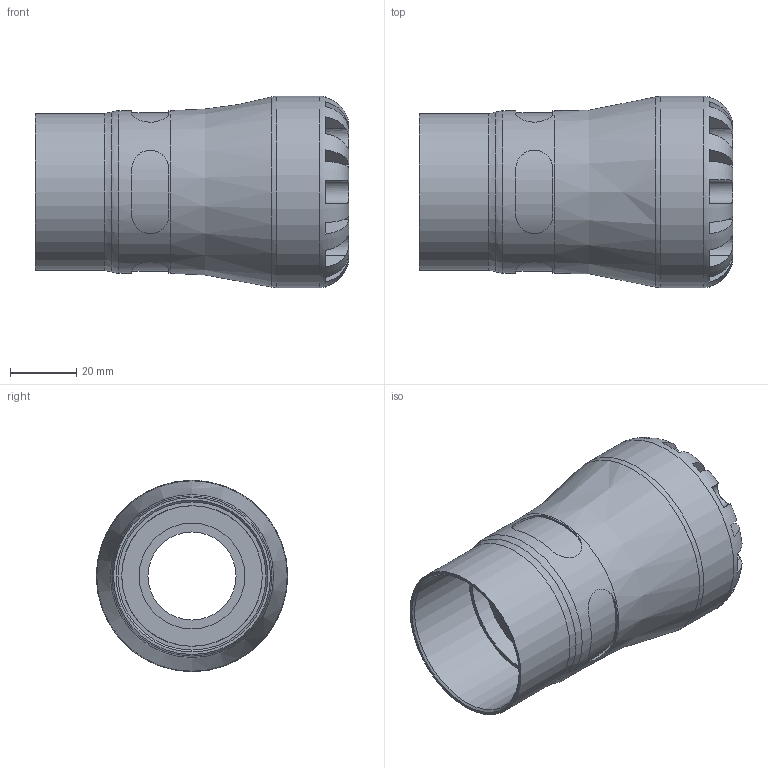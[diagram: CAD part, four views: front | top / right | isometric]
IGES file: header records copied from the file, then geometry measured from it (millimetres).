
Global section: file name: 100300032015_190300032015.ipt; native system: Autodesk Inventor 2015; preprocessor: unknown; author: KIM; date: 20191029.101405; units: millimetre
Bounding box: 95 x 58 x 58 mm (x, y, z)
Volume: 98416.1 mm3; surface area: 30341.2 mm2
Topology: 1 solids, 1 shells, 105 faces, 271 edges, 175 vertices
Faces by surface type: plane 62, revolution 28, cylinder 15
Full cylindrical faces by diameter (mm): 47.56 x1, 49.3 x1, 58 x1
